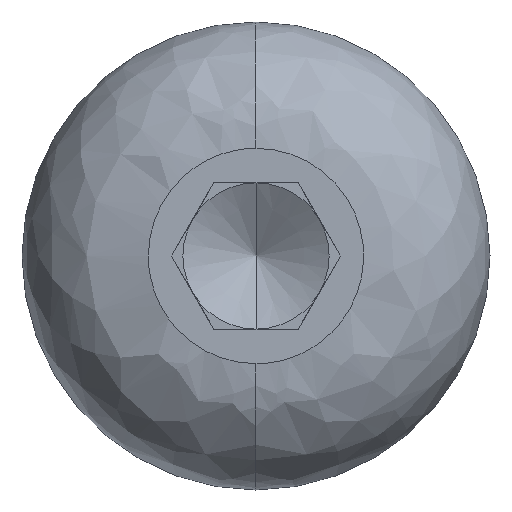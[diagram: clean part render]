
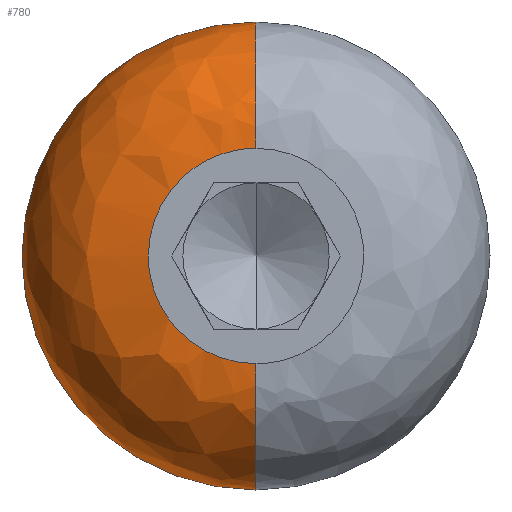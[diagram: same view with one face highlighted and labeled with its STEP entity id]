
A CAD part, left-side view. The second image highlights one B-rep face of the part: STEP entity #780.
In plain terms, the highlighted free-form (B-spline) face has degree [3, 3] with [4, 4] control points.
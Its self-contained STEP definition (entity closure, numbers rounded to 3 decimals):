
#7 = VERTEX_POINT ( 'NONE', #284 ) ;
#28 = ORIENTED_EDGE ( 'NONE', *, *, #510, .F. ) ;
#38 = CARTESIAN_POINT ( 'NONE',  ( 0., 3.68, -1.84 ) ) ;
#42 = ORIENTED_EDGE ( 'NONE', *, *, #575, .T. ) ;
#47 =( BOUNDED_CURVE ( )  B_SPLINE_CURVE ( 3, ( #443, #494, #355, #353 ),
 .UNSPECIFIED., .F., .F. ) 
 B_SPLINE_CURVE_WITH_KNOTS ( ( 4, 4 ),
 ( 0., 1. ),
 .UNSPECIFIED. ) 
 CURVE ( )  GEOMETRIC_REPRESENTATION_ITEM ( )  RATIONAL_B_SPLINE_CURVE ( ( 1., 0.805, 0.805, 1. ) ) 
 REPRESENTATION_ITEM ( '' )  );
#49 = AXIS2_PLACEMENT_3D ( 'NONE', #248, #245, #242 ) ;
#50 = CARTESIAN_POINT ( 'NONE',  ( 2.16, 0., -4. ) ) ;
#78 = ORIENTED_EDGE ( 'NONE', *, *, #573, .T. ) ;
#86 = AXIS2_PLACEMENT_3D ( 'NONE', #562, #561, #553 ) ;
#98 = CARTESIAN_POINT ( 'NONE',  ( 0., 0., 3.105 ) ) ;
#156 = ORIENTED_EDGE ( 'NONE', *, *, #285, .T. ) ;
#163 = CARTESIAN_POINT ( 'NONE',  ( 0., 6.211, -3.105 ) ) ;
#198 = ORIENTED_EDGE ( 'NONE', *, *, #236, .F. ) ;
#210 = CIRCLE ( 'NONE', #49, 2.16 ) ;
#223 = CARTESIAN_POINT ( 'NONE',  ( 0.895, 0., 4. ) ) ;
#236 = EDGE_CURVE ( 'NONE', #505, #7, #454, .T. ) ;
#242 = DIRECTION ( 'NONE',  ( 0., 0., 1. ) ) ;
#245 = DIRECTION ( 'NONE',  ( 0., 1., 0. ) ) ;
#248 = CARTESIAN_POINT ( 'NONE',  ( 2.16, 0., 1.84 ) ) ;
#260 = FACE_OUTER_BOUND ( 'NONE', #678, .T. ) ;
#266 =( BOUNDED_CURVE ( )  B_SPLINE_CURVE ( 3, ( #512, #565, #442, #439 ),
 .UNSPECIFIED., .F., .F. ) 
 B_SPLINE_CURVE_WITH_KNOTS ( ( 4, 4 ),
 ( 0., 1. ),
 .UNSPECIFIED. ) 
 CURVE ( )  GEOMETRIC_REPRESENTATION_ITEM ( )  RATIONAL_B_SPLINE_CURVE ( ( 1., 0.805, 0.805, 1. ) ) 
 REPRESENTATION_ITEM ( '' )  );
#281 = CARTESIAN_POINT ( 'NONE',  ( 2.16, 0., -4. ) ) ;
#283 = CARTESIAN_POINT ( 'NONE',  ( 0.895, 8., -4. ) ) ;
#284 = CARTESIAN_POINT ( 'NONE',  ( 2.16, 0., 4. ) ) ;
#285 = EDGE_CURVE ( 'NONE', #406, #7, #210, .T. ) ;
#350 = CARTESIAN_POINT ( 'NONE',  ( 2.16, 0., 4. ) ) ;
#353 = CARTESIAN_POINT ( 'NONE',  ( 0., 1.84, 0. ) ) ;
#355 = CARTESIAN_POINT ( 'NONE',  ( 0., 1.84, -1.078 ) ) ;
#406 = VERTEX_POINT ( 'NONE', #762 ) ;
#411 = CARTESIAN_POINT ( 'NONE',  ( 0., 0., 1.84 ) ) ;
#426 = VERTEX_POINT ( 'NONE', #728 ) ;
#427 = CARTESIAN_POINT ( 'NONE',  ( 2.16, 8., -4. ) ) ;
#439 = CARTESIAN_POINT ( 'NONE',  ( 0., 0., 1.84 ) ) ;
#442 = CARTESIAN_POINT ( 'NONE',  ( 0., 1.078, 1.84 ) ) ;
#443 = CARTESIAN_POINT ( 'NONE',  ( 0., 0., -1.84 ) ) ;
#454 = CIRCLE ( 'NONE', #86, 4. ) ;
#470 = CARTESIAN_POINT ( 'NONE',  ( 0., 0., -1.84 ) ) ;
#494 = CARTESIAN_POINT ( 'NONE',  ( 0., 1.078, -1.84 ) ) ;
#505 = VERTEX_POINT ( 'NONE', #281 ) ;
#510 = EDGE_CURVE ( 'NONE', #426, #505, #677, .T. ) ;
#512 = CARTESIAN_POINT ( 'NONE',  ( 0., 1.84, 0. ) ) ;
#530 = AXIS2_PLACEMENT_3D ( 'NONE', #781, #772, #742 ) ;
#536 = CARTESIAN_POINT ( 'NONE',  ( 0., 6.211, 3.105 ) ) ;
#553 = DIRECTION ( 'NONE',  ( 0., 0., 1. ) ) ;
#556 = VERTEX_POINT ( 'NONE', #633 ) ;
#561 = DIRECTION ( 'NONE',  ( 1., 0., 0. ) ) ;
#562 = CARTESIAN_POINT ( 'NONE',  ( 2.16, 0., 0. ) ) ;
#565 = CARTESIAN_POINT ( 'NONE',  ( 0., 1.84, 1.078 ) ) ;
#573 = EDGE_CURVE ( 'NONE', #556, #406, #266, .T. ) ;
#575 = EDGE_CURVE ( 'NONE', #426, #556, #47, .T. ) ;
#608 = CARTESIAN_POINT ( 'NONE',  ( 0., 0., -3.105 ) ) ;
#633 = CARTESIAN_POINT ( 'NONE',  ( 0., 1.84, 0. ) ) ;
#671 = CARTESIAN_POINT ( 'NONE',  ( 0.895, 8., 4. ) ) ;
#673 =( BOUNDED_SURFACE ( )  B_SPLINE_SURFACE ( 3, 3, ( 
 ( #411, #709, #38, #470 ),
 ( #98, #536, #163, #608 ),
 ( #223, #671, #283, #723 ),
 ( #350, #779, #427, #50 ) ),
 .UNSPECIFIED., .F., .F., .F. ) 
 B_SPLINE_SURFACE_WITH_KNOTS ( ( 4, 4 ),
 ( 4, 4 ),
 ( 0., 1. ),
 ( 0., 1. ),
 .UNSPECIFIED. ) 
 GEOMETRIC_REPRESENTATION_ITEM ( )  RATIONAL_B_SPLINE_SURFACE ( (
 ( 1., 0.333, 0.333, 1.),
 ( 0.805, 0.268, 0.268, 0.805),
 ( 0.805, 0.268, 0.268, 0.805),
 ( 1., 0.333, 0.333, 1.) ) ) 
 REPRESENTATION_ITEM ( '' )  SURFACE ( )  );
#677 = CIRCLE ( 'NONE', #530, 2.16 ) ;
#678 = EDGE_LOOP ( 'NONE', ( #28, #42, #78, #156, #198 ) ) ;
#709 = CARTESIAN_POINT ( 'NONE',  ( 0., 3.68, 1.84 ) ) ;
#723 = CARTESIAN_POINT ( 'NONE',  ( 0.895, 0., -4. ) ) ;
#728 = CARTESIAN_POINT ( 'NONE',  ( 0., 0., -1.84 ) ) ;
#742 = DIRECTION ( 'NONE',  ( 0., 0., -1. ) ) ;
#762 = CARTESIAN_POINT ( 'NONE',  ( 0., 0., 1.84 ) ) ;
#772 = DIRECTION ( 'NONE',  ( 0., -1., 0. ) ) ;
#779 = CARTESIAN_POINT ( 'NONE',  ( 2.16, 8., 4. ) ) ;
#780 = ADVANCED_FACE ( 'NONE', ( #260 ), #673, .T. ) ;
#781 = CARTESIAN_POINT ( 'NONE',  ( 2.16, 0., -1.84 ) ) ;
